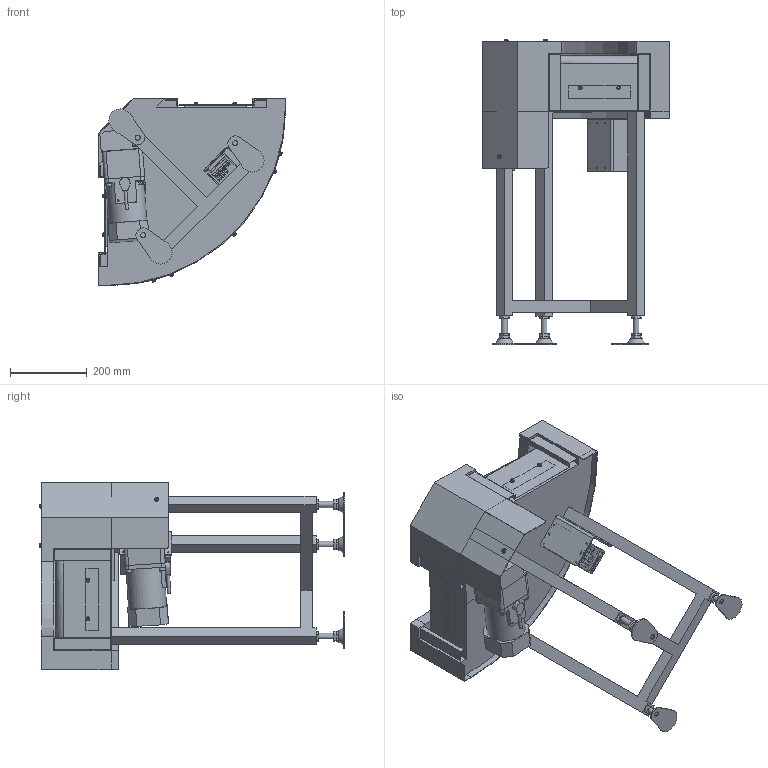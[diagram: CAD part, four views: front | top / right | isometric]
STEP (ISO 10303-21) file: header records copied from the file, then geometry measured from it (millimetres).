
FILE_DESCRIPTION( (''), '2;1');
FILE_NAME ('WEB-MBC2H-UD-320-200-90°-L-IVH-5-O-H.stp','2025-07-31T13:23:07',(''),(''),'spGate 20.6.2 (****-****-****-****)','','');
FILE_SCHEMA (('AUTOMOTIVE_DESIGN'));
Length unit declared in the file: millimetre
Products named in the file (36): WEB-MBC2H-UD-320-200-90_-L-IVH-5-O-H; TEMP_X_T-prt0; TEMP_X_T-prt1; TEMP_X_T-prt2; TEMP_X_T-prt3; TEMP_X_T-prt4; TEMP_X_T-prt5; TEMP_X_T-prt6; TEMP_X_T-prt7; TEMP_X_T-prt8; TEMP_X_T-prt9; TEMP_X_T-prt10; TEMP_X_T-prt11; TEMP_X_T-prt12; TEMP_X_T-prt13; TEMP_X_T-prt14; TEMP_X_T-prt15; TEMP_X_T-prt16; TEMP_X_T-prt17; TEMP_X_T-prt18; TEMP_X_T-prt19; TEMP_X_T-prt20; TEMP_X_T-prt21; TEMP_X_T-prt22; TEMP_X_T-prt23; TEMP_X_T-prt24; TEMP_X_T-prt25; TEMP_X_T-prt26; TEMP_X_T-prt27; TEMP_X_T-prt28; TEMP_X_T-prt29; TEMP_X_T-prt30; TEMP_X_T-prt31; TEMP_X_T-prt32; TEMP_X_T-prt33; TEMP_X_T-prt34
Assembly tree (35 placements, depth 2):
  WEB-MBC2H-UD-320-200-90_-L-IVH-5-O-H
    TEMP_X_T-prt0
    TEMP_X_T-prt1
    TEMP_X_T-prt2
    TEMP_X_T-prt3
    TEMP_X_T-prt4
    TEMP_X_T-prt5
    TEMP_X_T-prt6
    TEMP_X_T-prt7
    TEMP_X_T-prt8
    TEMP_X_T-prt9
    TEMP_X_T-prt10
    TEMP_X_T-prt11
    TEMP_X_T-prt12
    TEMP_X_T-prt13
    TEMP_X_T-prt14
    TEMP_X_T-prt15
    TEMP_X_T-prt16
    TEMP_X_T-prt17
    TEMP_X_T-prt18
    TEMP_X_T-prt19
    TEMP_X_T-prt20
    TEMP_X_T-prt21
    TEMP_X_T-prt22
    TEMP_X_T-prt23
    TEMP_X_T-prt24
    TEMP_X_T-prt25
    TEMP_X_T-prt26
    TEMP_X_T-prt27
    TEMP_X_T-prt28
    TEMP_X_T-prt29
    TEMP_X_T-prt30
    TEMP_X_T-prt31
    TEMP_X_T-prt32
    TEMP_X_T-prt33
    TEMP_X_T-prt34
Bounding box: 488.1 x 794.6 x 488.1 mm (x, y, z)
Volume: 24912871.3 mm3; surface area: 2090758.4 mm2
Topology: 35 solids, 46 shells, 1511 faces, 3934 edges, 2665 vertices
Faces by surface type: plane 1122, cylinder 253, bspline 134, sphere 2
Full cylindrical faces by diameter (mm): 3.3 x6, 3.5 x12, 3.8 x2, 4 x11, 5 x5, 5.8 x10, 6 x4, 6.4 x7, 6.5 x2, 6.6 x2, 7 x5, 7.5 x1, 7.8 x1, 8 x6, 8.5 x8, 9 x14, 9.2 x12, 10 x16, 12.04 x1, 12.5 x7, 13 x7, 16 x9, 18 x1, 20 x1, 23 x1, 42 x1, 43 x1, 94 x1, 99 x1
Entity records: 83601 total; most frequent: CARTESIAN_POINT 14239, ORIENTED_EDGE 7860, DIRECTION 7348, COLOUR_RGB 5476, PRESENTATION_STYLE_ASSIGNMENT 5476, STYLED_ITEM 5476, EDGE_CURVE 3930, DRAUGHTING_PRE_DEFINED_CURVE_FONT 3930
